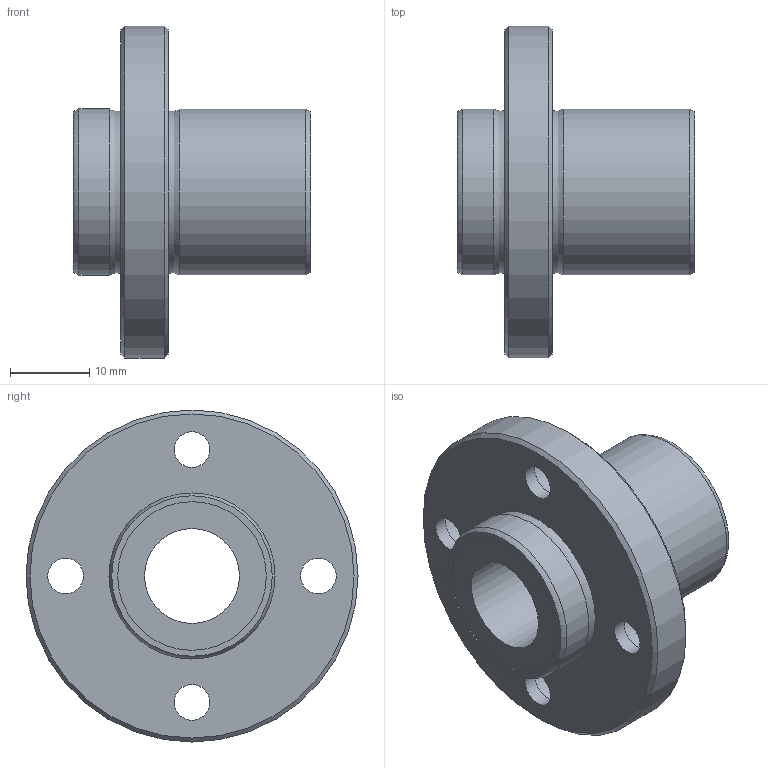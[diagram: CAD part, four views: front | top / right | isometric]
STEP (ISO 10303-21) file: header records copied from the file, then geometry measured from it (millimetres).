
FILE_DESCRIPTION((''),'2;1');
FILE_NAME('D:\製品 (図面)\カタログ用3D\リニアベアリング関連\STEP形式\LFB\LFB12.stp','2010-06-03T09:16:29',('Tsuchiya'),(''),'Autodesk Inventor 10','Autodesk Inventor 10','');
FILE_SCHEMA(('AUTOMOTIVE_DESIGN { 1 0 10303 214 1 1 1 1 }'));
Length unit declared in the file: millimetre
Products named in the file (1): LFB12
Bounding box: 30 x 42 x 42 mm (x, y, z)
Volume: 12138.1 mm3; surface area: 6375.9 mm2
Topology: 1 solids, 1 shells, 30 faces, 54 edges, 34 vertices
Faces by surface type: bspline 14, cylinder 6, plane 6, cone 2, torus 2
Full cylindrical faces by diameter (mm): 12 x1, 18.8 x2, 21 x2, 42 x1
Entity records: 907 total; most frequent: CARTESIAN_POINT 371, DIRECTION 102, ORIENTED_EDGE 68, EDGE_LOOP 68, AXIS2_PLACEMENT_3D 51, FACE_BOUND 38, VERTEX_POINT 34, CIRCLE 34
